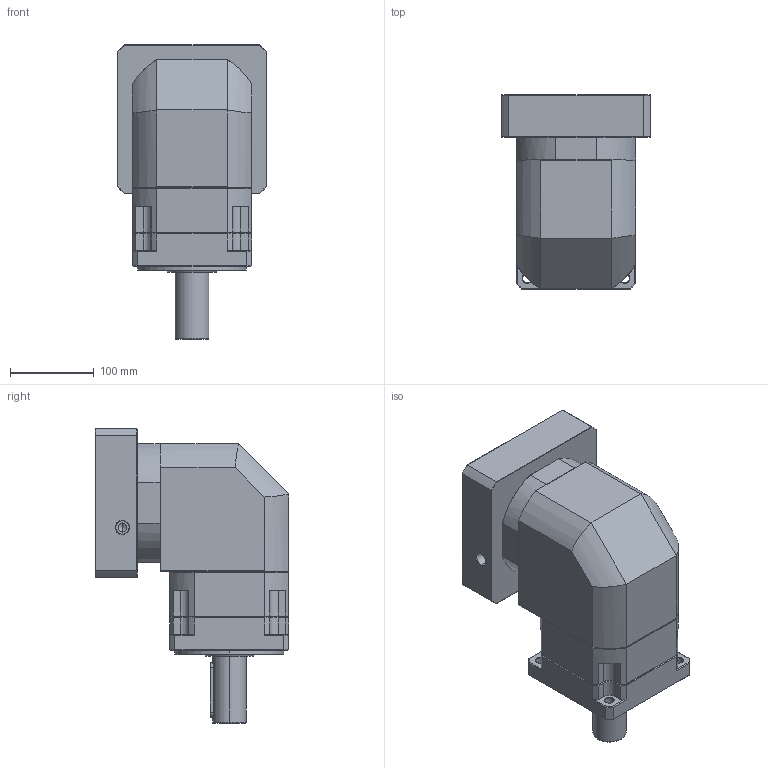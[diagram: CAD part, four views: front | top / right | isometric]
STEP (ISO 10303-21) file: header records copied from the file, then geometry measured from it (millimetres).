
FILE_DESCRIPTION (( 'STEP AP214' ), '1' );
FILE_NAME ('ZBR142A-D40-L1-P2-35-150-200-M12.step', '2023-09-02T07:11:41', ( '' ), ( '' ), 'SwSTEP 2.0', 'SolidWorks 2016', '' );
FILE_SCHEMA (( 'AUTOMOTIVE_DESIGN' ));
Length unit declared in the file: millimetre
Products named in the file (1): ZBR142A-D40-L1-P2-35-150-200-M12
Bounding box: 178 x 231 x 351.7 mm (x, y, z)
Volume: 5910100.6 mm3; surface area: 427076.4 mm2
Topology: 6 solids, 6 shells, 2298 faces, 6061 edges, 3870 vertices
Faces by surface type: plane 1120, cylinder 414, bspline 410, cone 332, torus 22
Entity records: 128733 total; most frequent: CARTESIAN_POINT 49981, ORIENTED_EDGE 12062, DIRECTION 9528, EDGE_CURVE 6031, VECTOR 3898, LINE 3898, VERTEX_POINT 3870, AXIS2_PLACEMENT_3D 2815
